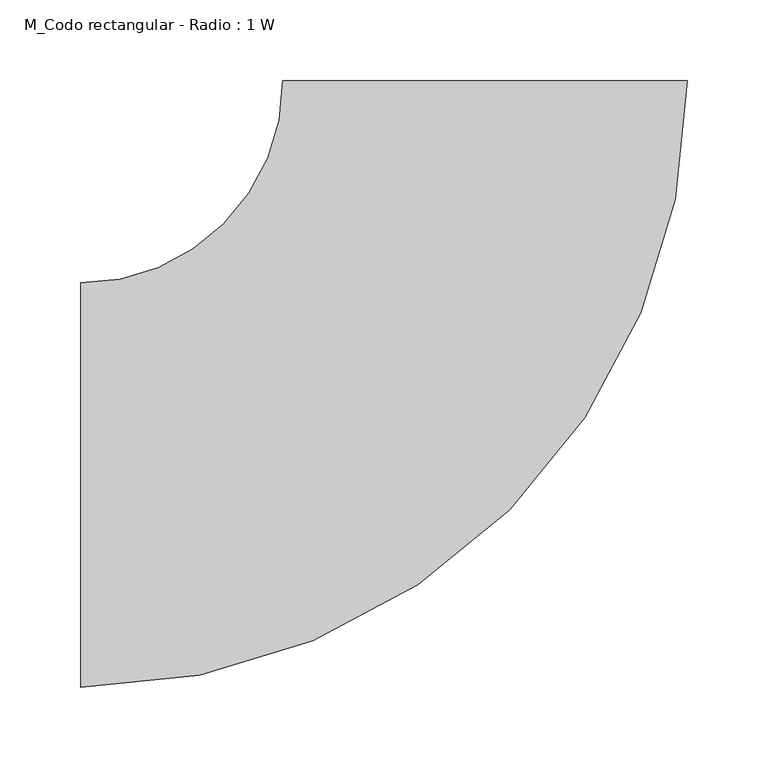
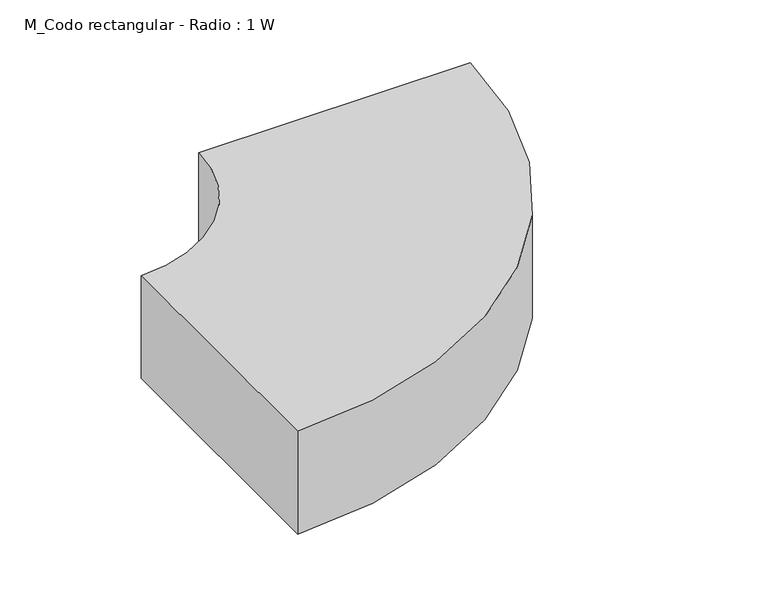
"""IFC4 building model written with IfcOpenShell, lengths in millimetres: duct fitting geometry, M_Codo rectangular - Radio : 1 W."""

from ifc_helpers import new_model, si_unit, point, frame, frame_2d, origin, place, context, project, spatial, polyline, circle_curve, trimmed, segment, composite_curve, outline, extrude, source, transform, mapped, element, save


def m_codo_rectangular_radio_1_w_c475145c(model_context):
    return source(origin(), model_context, "Body", "SweptSolid", [
        extrude(outline(composite_curve([segment(trimmed(circle_curve(frame_2d((-250.0, 250.0)), 375.0), [point((125.0, 250.0))], [point((-250.0, -125.0))], False, "CARTESIAN"), True, "CONTINUOUS"), segment(polyline([(-250.0, -125.0), (-250.0, 125.0)]), True, "CONTINUOUS"), segment(trimmed(circle_curve(frame_2d((-250.0, 250.0)), 125.0), [point((-250.0, 125.0))], [point((-125.0, 250.0))], True, "CARTESIAN"), True, "CONTINUOUS"), segment(polyline([(-125.0, 250.0), (125.0, 250.0)]), True, "CONTINUOUS")], self_intersect=False)), frame((0.0, 0.0, -50.0), z_axis=(0.0, 0.0, 1.0), x_axis=(1.0, 0.0, 0.0)), (0.0, 0.0, 1.0), 100.0),
    ])


if __name__ == "__main__":
    model = new_model("IFC4")
    model_context = context("Model", 3, world=origin())
    ifc_project = project(units=[si_unit("LENGTHUNIT", "METRE", prefix="MILLI")], contexts=[model_context])
    site = spatial("IfcSite", under=ifc_project)
    building = spatial("IfcBuilding", under=site)
    placement = place(None, origin())
    m_codo_rectangular_radio_1_w_shape = m_codo_rectangular_radio_1_w_c475145c(model_context)
    element("IfcDuctFitting", 1, ObjectType="M_Codo rectangular - Radio : 1 W", at=placement, inside=building, context=model_context, shape_type="MappedRepresentation", body=[
        mapped(m_codo_rectangular_radio_1_w_shape, transform((0.0, 0.0, 0.0), x_axis=(1.0, 0.0, 0.0), y_axis=(0.0, 1.0, 0.0), z_axis=(0.0, 0.0, 1.0))),
    ])
    save(model, "model.ifc")
